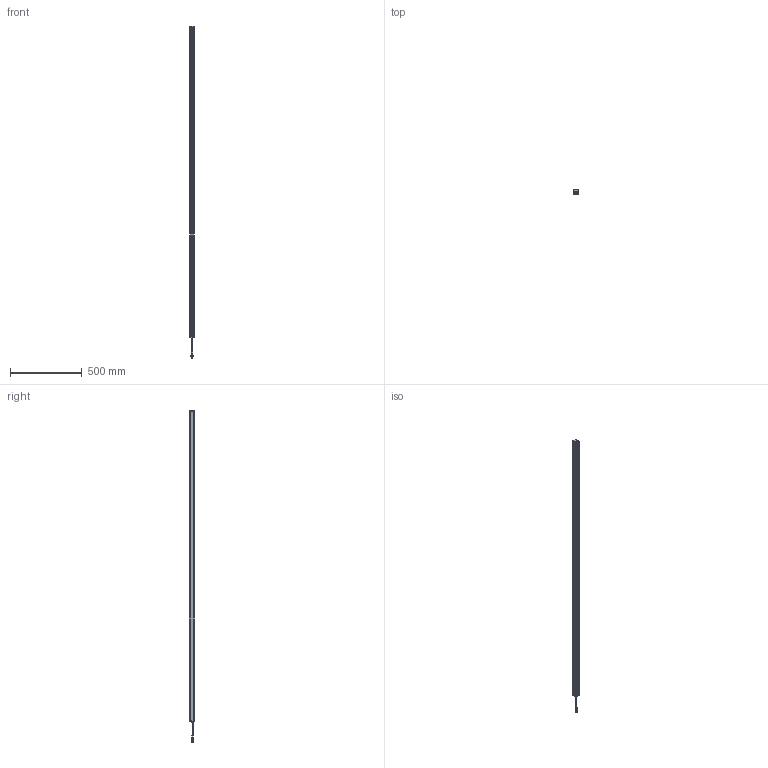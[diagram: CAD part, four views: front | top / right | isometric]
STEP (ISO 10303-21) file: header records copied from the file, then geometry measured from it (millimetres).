
FILE_DESCRIPTION((''),'2;1');
FILE_NAME('PRT0004','2026-04-01T16:05:43',('Administrator'),(''),'CREO PARAMETRIC BY PTC INC, 2016510','CREO PARAMETRIC BY PTC INC, 2016510','');
FILE_SCHEMA(('AUTOMOTIVE_DESIGN { 1 0 10303 214 1 1 1 1 }'));
Length unit declared in the file: millimetre
Products named in the file (1): PRT0004
Bounding box: 33 x 38 x 2321.9 mm (x, y, z)
Surface area: 467297.1 mm2 (no closed solid volume)
Topology: 0 solids, 12 shells, 622 faces, 1755 edges, 1153 vertices
Faces by surface type: plane 301, cylinder 225, torus 32, sphere 32, cone 28, bspline 4
Entity records: 25261 total; most frequent: CARTESIAN_POINT 4741, ORIENTED_EDGE 3422, DIRECTION 3374, EDGE_CURVE 1711, AXIS2_PLACEMENT_3D 1232, VERTEX_POINT 1153, VECTOR 910, LINE 910
